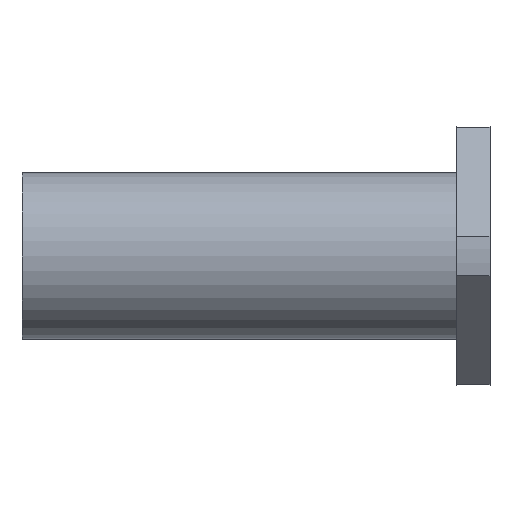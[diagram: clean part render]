
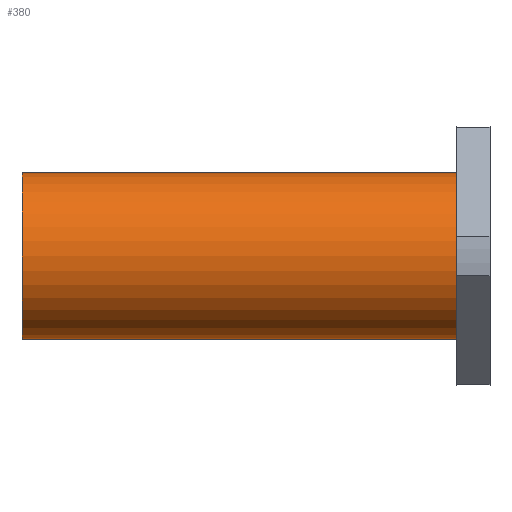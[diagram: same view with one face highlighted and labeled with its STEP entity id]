
A CAD part, front view. The second image highlights one B-rep face of the part: STEP entity #380.
In plain terms, the highlighted cylindrical face has radius 20 mm (diameter 40 mm), a full revolution.
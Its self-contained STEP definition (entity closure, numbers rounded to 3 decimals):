
#83=ORIENTED_EDGE('',*,*,#171,.T.);
#84=ORIENTED_EDGE('',*,*,#172,.F.);
#171=EDGE_CURVE('',#215,#215,#245,.T.);
#172=EDGE_CURVE('',#216,#216,#246,.T.);
#215=VERTEX_POINT('',#638);
#216=VERTEX_POINT('',#640);
#245=CIRCLE('',#433,20.);
#246=CIRCLE('',#434,20.);
#270=EDGE_LOOP('',(#83));
#271=EDGE_LOOP('',(#84));
#320=FACE_BOUND('',#270,.T.);
#321=FACE_BOUND('',#271,.T.);
#362=CYLINDRICAL_SURFACE('',#432,20.);
#380=ADVANCED_FACE('',(#320,#321),#362,.T.);
#432=AXIS2_PLACEMENT_3D('',#636,#514,#515);
#433=AXIS2_PLACEMENT_3D('',#637,#516,#517);
#434=AXIS2_PLACEMENT_3D('',#639,#518,#519);
#514=DIRECTION('',(-1.,0.,0.));
#515=DIRECTION('',(0.,0.,1.));
#516=DIRECTION('',(1.,0.,0.));
#517=DIRECTION('',(0.,0.,-1.));
#518=DIRECTION('',(1.,0.,0.));
#519=DIRECTION('',(0.,0.,-1.));
#636=CARTESIAN_POINT('',(56.,0.,0.));
#637=CARTESIAN_POINT('',(-56.,0.,0.));
#638=CARTESIAN_POINT('',(-56.,0.,-20.));
#639=CARTESIAN_POINT('',(48.,0.,0.));
#640=CARTESIAN_POINT('',(48.,0.,-20.));
